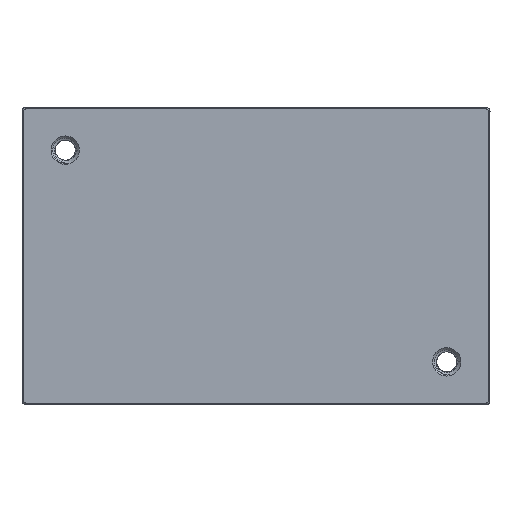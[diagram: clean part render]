
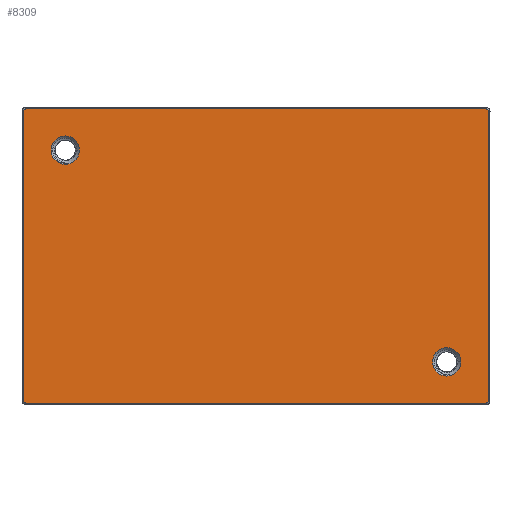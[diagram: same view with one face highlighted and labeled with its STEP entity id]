
A CAD part, front view. The second image highlights one B-rep face of the part: STEP entity #8309.
In plain terms, the highlighted planar face has unit normal (0, -1, 0).
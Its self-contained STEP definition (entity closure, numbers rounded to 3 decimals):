
#479=DIRECTION('',(0.,0.,-1.));
#480=VECTOR('',#479,35.8);
#481=CARTESIAN_POINT('',(-28.75,0.,
17.9));
#482=LINE('',#481,#480);
#487=CARTESIAN_POINT('',(-23.6,0.,13.1));
#488=DIRECTION('',(0.,-1.,0.));
#489=DIRECTION('',(-1.,0.,0.));
#490=AXIS2_PLACEMENT_3D('',#487,#488,#489);
#492=CARTESIAN_POINT('',(-23.6,0.,13.1));
#493=DIRECTION('',(0.,-1.,0.));
#494=DIRECTION('',(1.,0.,0.));
#495=AXIS2_PLACEMENT_3D('',#492,#493,#494);
#497=CARTESIAN_POINT('',(23.6,0.,-13.1));
#498=DIRECTION('',(0.,-1.,0.));
#499=DIRECTION('',(-1.,0.,0.));
#500=AXIS2_PLACEMENT_3D('',#497,#498,#499);
#502=CARTESIAN_POINT('',(23.6,0.,-13.1));
#503=DIRECTION('',(0.,-1.,0.));
#504=DIRECTION('',(1.,0.,0.));
#505=AXIS2_PLACEMENT_3D('',#502,#503,#504);
#507=CARTESIAN_POINT('',(-28.45,0.,17.9));
#508=DIRECTION('',(0.,1.,0.));
#509=DIRECTION('',(-1.,0.,0.));
#510=AXIS2_PLACEMENT_3D('',#507,#508,#509);
#512=CARTESIAN_POINT('',(28.45,0.,17.9));
#513=DIRECTION('',(0.,1.,0.));
#514=DIRECTION('',(0.,0.,1.));
#515=AXIS2_PLACEMENT_3D('',#512,#513,#514);
#517=CARTESIAN_POINT('',(28.45,0.,-17.9));
#518=DIRECTION('',(0.,1.,0.));
#519=DIRECTION('',(1.,0.,0.));
#520=AXIS2_PLACEMENT_3D('',#517,#518,#519);
#522=CARTESIAN_POINT('',(-28.45,0.,-17.9));
#523=DIRECTION('',(0.,1.,0.));
#524=DIRECTION('',(0.,0.,-1.));
#525=AXIS2_PLACEMENT_3D('',#522,#523,#524);
#4787=DIRECTION('',(-1.,0.,0.));
#4788=VECTOR('',#4787,56.9);
#4789=CARTESIAN_POINT('',(28.45,0.,
18.2));
#4790=LINE('',#4789,#4788);
#4803=DIRECTION('',(0.,0.,1.));
#4804=VECTOR('',#4803,35.8);
#4805=CARTESIAN_POINT('',(28.75,0.,
-17.9));
#4806=LINE('',#4805,#4804);
#4815=DIRECTION('',(1.,0.,0.));
#4816=VECTOR('',#4815,56.9);
#4817=CARTESIAN_POINT('',(-28.45,0.,
-18.2));
#4818=LINE('',#4817,#4816);
#6386=CARTESIAN_POINT('',(-28.75,0.,17.9));
#6387=CARTESIAN_POINT('',(-28.45,0.,18.2));
#6388=VERTEX_POINT('',#6386);
#6389=VERTEX_POINT('',#6387);
#6390=CARTESIAN_POINT('',(28.45,0.,18.2));
#6391=CARTESIAN_POINT('',(28.75,0.,17.9));
#6392=VERTEX_POINT('',#6390);
#6393=VERTEX_POINT('',#6391);
#6394=CARTESIAN_POINT('',(28.75,0.,-17.9));
#6395=CARTESIAN_POINT('',(28.45,0.,-18.2));
#6396=VERTEX_POINT('',#6394);
#6397=VERTEX_POINT('',#6395);
#6398=CARTESIAN_POINT('',(-28.45,0.,-18.2));
#6399=CARTESIAN_POINT('',(-28.75,0.,-17.9));
#6400=VERTEX_POINT('',#6398);
#6401=VERTEX_POINT('',#6399);
#6545=CARTESIAN_POINT('',(21.85,0.,-13.1));
#6547=VERTEX_POINT('',#6545);
#6548=CARTESIAN_POINT('',(25.35,0.,-13.1));
#6550=VERTEX_POINT('',#6548);
#6692=CARTESIAN_POINT('',(-25.35,0.,13.1));
#6694=VERTEX_POINT('',#6692);
#6695=CARTESIAN_POINT('',(-21.85,0.,13.1));
#6697=VERTEX_POINT('',#6695);
#8275=CARTESIAN_POINT('',(0.,0.,0.));
#8276=DIRECTION('',(0.,1.,0.));
#8277=DIRECTION('',(1.,0.,0.));
#8278=AXIS2_PLACEMENT_3D('',#8275,#8276,#8277);
#8279=PLANE('',#8278);
#8281=ORIENTED_EDGE('',*,*,#8280,.T.);
#8283=ORIENTED_EDGE('',*,*,#8282,.F.);
#8285=ORIENTED_EDGE('',*,*,#8284,.T.);
#8287=ORIENTED_EDGE('',*,*,#8286,.F.);
#8289=ORIENTED_EDGE('',*,*,#8288,.T.);
#8291=ORIENTED_EDGE('',*,*,#8290,.F.);
#8293=ORIENTED_EDGE('',*,*,#8292,.T.);
#8294=ORIENTED_EDGE('',*,*,#8258,.F.);
#8295=EDGE_LOOP('',(#8281,#8283,#8285,#8287,#8289,#8291,#8293,#8294));
#8296=FACE_OUTER_BOUND('',#8295,.F.);
#8298=ORIENTED_EDGE('',*,*,#8297,.T.);
#8300=ORIENTED_EDGE('',*,*,#8299,.T.);
#8301=EDGE_LOOP('',(#8298,#8300));
#8302=FACE_BOUND('',#8301,.F.);
#8304=ORIENTED_EDGE('',*,*,#8303,.T.);
#8306=ORIENTED_EDGE('',*,*,#8305,.T.);
#8307=EDGE_LOOP('',(#8304,#8306));
#8308=FACE_BOUND('',#8307,.F.);
#491=CIRCLE('',#490,1.75);
#496=CIRCLE('',#495,1.75);
#501=CIRCLE('',#500,1.75);
#506=CIRCLE('',#505,1.75);
#511=CIRCLE('',#510,0.3);
#516=CIRCLE('',#515,0.3);
#521=CIRCLE('',#520,0.3);
#526=CIRCLE('',#525,0.3);
#8258=EDGE_CURVE('',#6388,#6401,#482,.T.);
#8280=EDGE_CURVE('',#6388,#6389,#511,.T.);
#8282=EDGE_CURVE('',#6392,#6389,#4790,.T.);
#8284=EDGE_CURVE('',#6392,#6393,#516,.T.);
#8286=EDGE_CURVE('',#6396,#6393,#4806,.T.);
#8288=EDGE_CURVE('',#6396,#6397,#521,.T.);
#8290=EDGE_CURVE('',#6400,#6397,#4818,.T.);
#8292=EDGE_CURVE('',#6400,#6401,#526,.T.);
#8297=EDGE_CURVE('',#6547,#6550,#501,.T.);
#8299=EDGE_CURVE('',#6550,#6547,#506,.T.);
#8303=EDGE_CURVE('',#6694,#6697,#491,.T.);
#8305=EDGE_CURVE('',#6697,#6694,#496,.T.);
#8309=ADVANCED_FACE('',(#8296,#8302,#8308),#8279,.F.);
